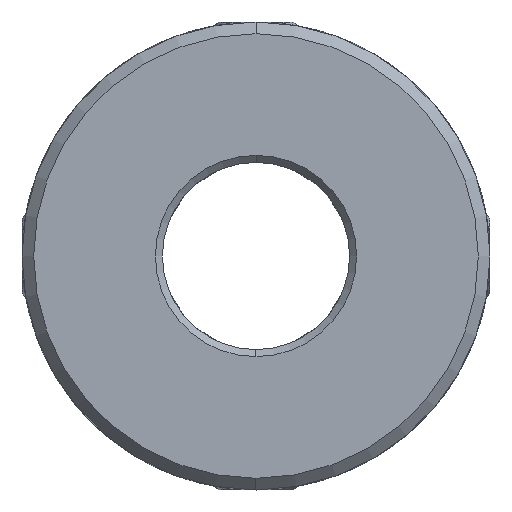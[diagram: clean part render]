
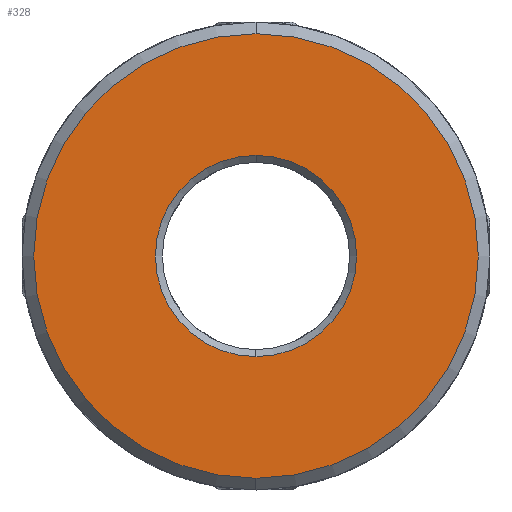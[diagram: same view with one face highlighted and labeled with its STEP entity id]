
A CAD part, front view. The second image highlights one B-rep face of the part: STEP entity #328.
In plain terms, the highlighted planar face has unit normal (0, -1, 0).
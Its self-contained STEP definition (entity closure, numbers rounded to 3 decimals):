
#328 = ADVANCED_FACE ( 'NONE', ( #9502, #1411 ), #7532, .F. ) ;
#759 = DIRECTION ( 'NONE',  ( 0., 1., 0. ) ) ;
#1035 = CARTESIAN_POINT ( 'NONE',  ( 0., -23., -4.3 ) ) ;
#1079 = DIRECTION ( 'NONE',  ( 0., -1., 0. ) ) ;
#1083 = ORIENTED_EDGE ( 'NONE', *, *, #7915, .T. ) ;
#1129 = VERTEX_POINT ( 'NONE', #1035 ) ;
#1411 = FACE_OUTER_BOUND ( 'NONE', #8508, .T. ) ;
#1491 = AXIS2_PLACEMENT_3D ( 'NONE', #3214, #1757, #7107 ) ;
#1516 = DIRECTION ( 'NONE',  ( 0., -1., 0. ) ) ;
#1757 = DIRECTION ( 'NONE',  ( 0., 1., 0. ) ) ;
#2237 = VERTEX_POINT ( 'NONE', #5449 ) ;
#2272 = DIRECTION ( 'NONE',  ( 0., 0., -1. ) ) ;
#2600 = ORIENTED_EDGE ( 'NONE', *, *, #6787, .T. ) ;
#2838 = AXIS2_PLACEMENT_3D ( 'NONE', #6879, #6062, #3806 ) ;
#2976 = CARTESIAN_POINT ( 'NONE',  ( 0., -23., 0. ) ) ;
#3214 = CARTESIAN_POINT ( 'NONE',  ( 0., -23., 0. ) ) ;
#3806 = DIRECTION ( 'NONE',  ( 0., 0., -1. ) ) ;
#4177 = ORIENTED_EDGE ( 'NONE', *, *, #8354, .T. ) ;
#4337 = CARTESIAN_POINT ( 'NONE',  ( 0., -23., 4.3 ) ) ;
#4572 = CARTESIAN_POINT ( 'NONE',  ( 0., -23., 0. ) ) ;
#5294 = AXIS2_PLACEMENT_3D ( 'NONE', #9418, #1079, #6442 ) ;
#5449 = CARTESIAN_POINT ( 'NONE',  ( 0., -23., -9.5 ) ) ;
#5554 = CIRCLE ( 'NONE', #8455, 4.3 ) ;
#5580 = EDGE_LOOP ( 'NONE', ( #4177, #6901 ) ) ;
#6062 = DIRECTION ( 'NONE',  ( 0., 1., 0. ) ) ;
#6442 = DIRECTION ( 'NONE',  ( 0., 0., -1. ) ) ;
#6703 = CARTESIAN_POINT ( 'NONE',  ( 0., -23., 9.5 ) ) ;
#6787 = EDGE_CURVE ( 'NONE', #7125, #2237, #9816, .T. ) ;
#6879 = CARTESIAN_POINT ( 'NONE',  ( 50., -23., -15.365 ) ) ;
#6881 = DIRECTION ( 'NONE',  ( 0., 0., -1. ) ) ;
#6901 = ORIENTED_EDGE ( 'NONE', *, *, #8790, .T. ) ;
#7107 = DIRECTION ( 'NONE',  ( 0., 0., -1. ) ) ;
#7125 = VERTEX_POINT ( 'NONE', #6703 ) ;
#7532 = PLANE ( 'NONE',  #2838 ) ;
#7887 = AXIS2_PLACEMENT_3D ( 'NONE', #2976, #1516, #2272 ) ;
#7915 = EDGE_CURVE ( 'NONE', #2237, #7125, #8277, .T. ) ;
#8277 = CIRCLE ( 'NONE', #5294, 9.5 ) ;
#8354 = EDGE_CURVE ( 'NONE', #8763, #1129, #9446, .T. ) ;
#8455 = AXIS2_PLACEMENT_3D ( 'NONE', #4572, #759, #6881 ) ;
#8508 = EDGE_LOOP ( 'NONE', ( #1083, #2600 ) ) ;
#8763 = VERTEX_POINT ( 'NONE', #4337 ) ;
#8790 = EDGE_CURVE ( 'NONE', #1129, #8763, #5554, .T. ) ;
#9418 = CARTESIAN_POINT ( 'NONE',  ( 0., -23., 0. ) ) ;
#9446 = CIRCLE ( 'NONE', #1491, 4.3 ) ;
#9502 = FACE_BOUND ( 'NONE', #5580, .T. ) ;
#9816 = CIRCLE ( 'NONE', #7887, 9.5 ) ;
